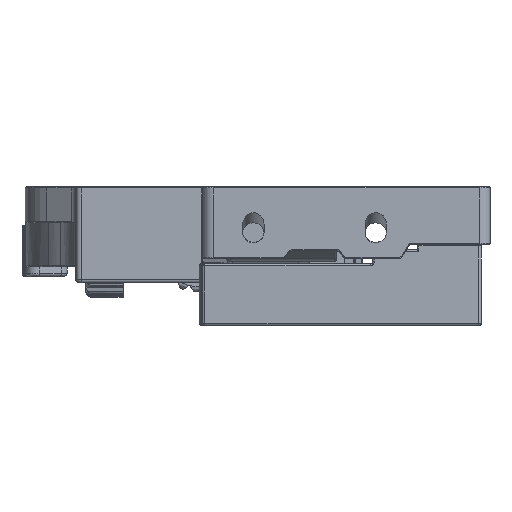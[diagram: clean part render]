
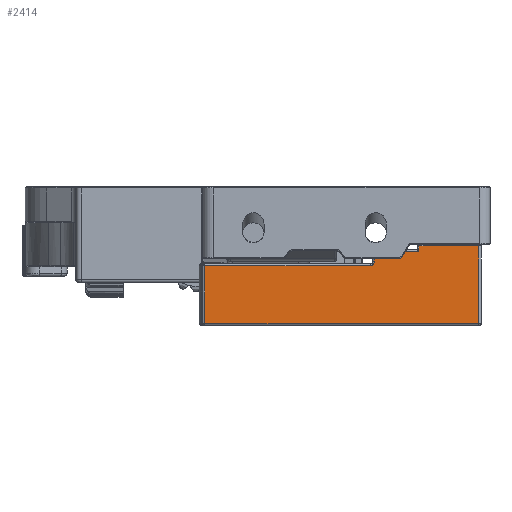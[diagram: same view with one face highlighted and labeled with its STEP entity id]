
A CAD part, front view. The second image highlights one B-rep face of the part: STEP entity #2414.
In plain terms, the highlighted planar face has unit normal (0, -1, 0).
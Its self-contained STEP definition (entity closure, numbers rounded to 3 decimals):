
#1434 = EDGE_CURVE ( 'NONE', #23380, #54816, #46738, .T. ) ;
#2380 = CARTESIAN_POINT ( 'NONE',  ( -13.422, -18.905, -11.206 ) ) ;
#2414 = ADVANCED_FACE ( 'NONE', ( #4628 ), #6515, .F. ) ;
#2738 = DIRECTION ( 'NONE',  ( -1., 0., 0. ) ) ;
#2882 = VECTOR ( 'NONE', #4498, 1000. ) ;
#3322 = DIRECTION ( 'NONE',  ( 0., 0., -1. ) ) ;
#3456 = CARTESIAN_POINT ( 'NONE',  ( -2.137, -18.905, -11.1 ) ) ;
#4498 = DIRECTION ( 'NONE',  ( 0., 0., 1. ) ) ;
#4628 = FACE_OUTER_BOUND ( 'NONE', #40705, .T. ) ;
#4851 = LINE ( 'NONE', #53442, #41004 ) ;
#4927 = CARTESIAN_POINT ( 'NONE',  ( -17.232, -18.905, -12.5 ) ) ;
#5741 = VERTEX_POINT ( 'NONE', #3456 ) ;
#6515 = PLANE ( 'NONE',  #54642 ) ;
#7166 = CARTESIAN_POINT ( 'NONE',  ( -13.427, -18.905, -11.222 ) ) ;
#7952 = ORIENTED_EDGE ( 'NONE', *, *, #37665, .T. ) ;
#8080 = CARTESIAN_POINT ( 'NONE',  ( -13.436, -18.905, -12.165 ) ) ;
#8715 = ORIENTED_EDGE ( 'NONE', *, *, #53239, .T. ) ;
#9023 = EDGE_CURVE ( 'NONE', #54816, #19866, #9177, .T. ) ;
#9177 = B_SPLINE_CURVE_WITH_KNOTS ( 'NONE', 3,
 ( #48705, #43956, #15349, #20492, #53460, #25226 ),
 .UNSPECIFIED., .F., .F.,
 ( 4, 2, 4 ),
 ( 0., 0.5, 1. ),
 .UNSPECIFIED. ) ;
#9579 = VERTEX_POINT ( 'NONE', #8080 ) ;
#9722 = DIRECTION ( 'NONE',  ( -1., 0., 0. ) ) ;
#10356 = VECTOR ( 'NONE', #40320, 1000. ) ;
#10673 = CARTESIAN_POINT ( 'NONE',  ( -21.731, -18.905, -23.5 ) ) ;
#11309 = DIRECTION ( 'NONE',  ( 0., 0., 1. ) ) ;
#11434 = VERTEX_POINT ( 'NONE', #46637 ) ;
#11571 = LINE ( 'NONE', #59822, #47613 ) ;
#11729 = CARTESIAN_POINT ( 'NONE',  ( -13.382, -18.905, -11.127 ) ) ;
#11931 = CARTESIAN_POINT ( 'NONE',  ( -13.435, -18.905, -11.259 ) ) ;
#12295 = CARTESIAN_POINT ( 'NONE',  ( -47.637, -18.905, -14.8 ) ) ;
#12540 = CARTESIAN_POINT ( 'NONE',  ( -47.637, -18.905, -12.165 ) ) ;
#12631 = DIRECTION ( 'NONE',  ( -1., 0., 0. ) ) ;
#12637 = CARTESIAN_POINT ( 'NONE',  ( -53.637, -18.905, -25.7 ) ) ;
#13579 = CARTESIAN_POINT ( 'NONE',  ( -13.436, -18.905, -23.5 ) ) ;
#14676 = CARTESIAN_POINT ( 'NONE',  ( -2.137, -18.905, -25.7 ) ) ;
#14718 = DIRECTION ( 'NONE',  ( -1., 0., 0. ) ) ;
#15349 = CARTESIAN_POINT ( 'NONE',  ( -21.818, -18.905, -14.418 ) ) ;
#15414 = EDGE_CURVE ( 'NONE', #16367, #21207, #18339, .T. ) ;
#16245 = CARTESIAN_POINT ( 'NONE',  ( -13.36, -18.905, -11.1 ) ) ;
#16367 = VERTEX_POINT ( 'NONE', #21451 ) ;
#16463 = CARTESIAN_POINT ( 'NONE',  ( -13.402, -18.905, -11.16 ) ) ;
#16664 = CARTESIAN_POINT ( 'NONE',  ( -13.436, -18.905, -11.287 ) ) ;
#16699 = ORIENTED_EDGE ( 'NONE', *, *, #1434, .T. ) ;
#16806 = CARTESIAN_POINT ( 'NONE',  ( -17.232, -18.905, -13.5 ) ) ;
#18339 = B_SPLINE_CURVE_WITH_KNOTS ( 'NONE', 3,
 ( #16245, #58691, #11729, #44624, #16463, #49393, #21183, #54136, #25886, #58885, #30633, #2380, #35329, #7166, #40106, #11931, #44827, #16664 ),
 .UNSPECIFIED., .F., .F.,
 ( 4, 2, 1, 1, 2, 2, 2, 2, 2, 4 ),
 ( 0., 0.25, 0.375, 0.437, 0.469, 0.5, 0.625, 0.687, 0.75, 1. ),
 .UNSPECIFIED. ) ;
#18357 = ORIENTED_EDGE ( 'NONE', *, *, #22216, .T. ) ;
#18763 = VERTEX_POINT ( 'NONE', #26036 ) ;
#19154 = CARTESIAN_POINT ( 'NONE',  ( -22.531, -18.905, -14.8 ) ) ;
#19866 = VERTEX_POINT ( 'NONE', #19154 ) ;
#20492 = CARTESIAN_POINT ( 'NONE',  ( -22.114, -18.905, -14.714 ) ) ;
#20624 = ORIENTED_EDGE ( 'NONE', *, *, #37492, .F. ) ;
#21183 = CARTESIAN_POINT ( 'NONE',  ( -13.412, -18.905, -11.179 ) ) ;
#21207 = VERTEX_POINT ( 'NONE', #43026 ) ;
#21393 = LINE ( 'NONE', #12540, #10356 ) ;
#21451 = CARTESIAN_POINT ( 'NONE',  ( -13.36, -18.905, -11.1 ) ) ;
#22216 = EDGE_CURVE ( 'NONE', #19866, #54341, #49335, .T. ) ;
#22698 = EDGE_CURVE ( 'NONE', #5741, #16367, #43435, .T. ) ;
#22781 = EDGE_CURVE ( 'NONE', #52923, #5741, #40531, .T. ) ;
#23026 = DIRECTION ( 'NONE',  ( 0., 0., -1. ) ) ;
#23380 = VERTEX_POINT ( 'NONE', #58518 ) ;
#24467 = ORIENTED_EDGE ( 'NONE', *, *, #34005, .T. ) ;
#25226 = CARTESIAN_POINT ( 'NONE',  ( -22.531, -18.905, -14.8 ) ) ;
#25886 = CARTESIAN_POINT ( 'NONE',  ( -13.415, -18.905, -11.186 ) ) ;
#26036 = CARTESIAN_POINT ( 'NONE',  ( -16.366, -18.905, -13. ) ) ;
#26432 = EDGE_CURVE ( 'NONE', #18763, #43047, #57213, .T. ) ;
#27285 = ORIENTED_EDGE ( 'NONE', *, *, #15414, .T. ) ;
#27767 = DIRECTION ( 'NONE',  ( 1., 0., 0. ) ) ;
#28574 = VERTEX_POINT ( 'NONE', #12637 ) ;
#28915 = CARTESIAN_POINT ( 'NONE',  ( -27.5, -18.905, -13.5 ) ) ;
#29350 = DIRECTION ( 'NONE',  ( 0., 0., -1. ) ) ;
#29428 = ORIENTED_EDGE ( 'NONE', *, *, #22698, .T. ) ;
#29468 = VECTOR ( 'NONE', #12631, 1000. ) ;
#30633 = CARTESIAN_POINT ( 'NONE',  ( -13.418, -18.905, -11.194 ) ) ;
#31150 = EDGE_CURVE ( 'NONE', #21207, #9579, #36286, .T. ) ;
#31513 = CARTESIAN_POINT ( 'NONE',  ( -47.637, -18.905, -25.7 ) ) ;
#34005 = EDGE_CURVE ( 'NONE', #9579, #11434, #21393, .T. ) ;
#34710 = CARTESIAN_POINT ( 'NONE',  ( -47.637, -18.905, -23.5 ) ) ;
#35329 = CARTESIAN_POINT ( 'NONE',  ( -13.424, -18.905, -11.211 ) ) ;
#35680 = VECTOR ( 'NONE', #29350, 1000. ) ;
#36130 = ORIENTED_EDGE ( 'NONE', *, *, #9023, .T. ) ;
#36286 = LINE ( 'NONE', #13579, #48870 ) ;
#37492 = EDGE_CURVE ( 'NONE', #18763, #11434, #4851, .T. ) ;
#37665 = EDGE_CURVE ( 'NONE', #54341, #28574, #11571, .T. ) ;
#37882 = DIRECTION ( 'NONE',  ( 0., 1., 0. ) ) ;
#39215 = DIRECTION ( 'NONE',  ( 0.5, 0., 0.866 ) ) ;
#39466 = DIRECTION ( 'NONE',  ( 0., 1., 0. ) ) ;
#40106 = CARTESIAN_POINT ( 'NONE',  ( -13.429, -18.905, -11.23 ) ) ;
#40269 = ORIENTED_EDGE ( 'NONE', *, *, #26432, .T. ) ;
#40320 = DIRECTION ( 'NONE',  ( -1., 0., 0. ) ) ;
#40531 = LINE ( 'NONE', #42194, #2882 ) ;
#40705 = EDGE_LOOP ( 'NONE', ( #41837, #16699, #36130, #18357, #7952, #8715, #55502, #29428, #27285, #58828, #24467, #20624, #40269 ) ) ;
#41004 = VECTOR ( 'NONE', #39215, 1000. ) ;
#41837 = ORIENTED_EDGE ( 'NONE', *, *, #56707, .T. ) ;
#42194 = CARTESIAN_POINT ( 'NONE',  ( -2.137, -18.905, -2.067 ) ) ;
#43026 = CARTESIAN_POINT ( 'NONE',  ( -13.436, -18.905, -11.287 ) ) ;
#43047 = VERTEX_POINT ( 'NONE', #16806 ) ;
#43435 = LINE ( 'NONE', #59593, #29468 ) ;
#43956 = CARTESIAN_POINT ( 'NONE',  ( -21.731, -18.905, -14.209 ) ) ;
#44275 = LINE ( 'NONE', #28915, #55345 ) ;
#44624 = CARTESIAN_POINT ( 'NONE',  ( -13.396, -18.905, -11.149 ) ) ;
#44827 = CARTESIAN_POINT ( 'NONE',  ( -13.436, -18.905, -11.277 ) ) ;
#46637 = CARTESIAN_POINT ( 'NONE',  ( -15.884, -18.905, -12.165 ) ) ;
#46738 = LINE ( 'NONE', #10673, #35680 ) ;
#47613 = VECTOR ( 'NONE', #3322, 1000. ) ;
#47815 = VECTOR ( 'NONE', #2738, 1000. ) ;
#48705 = CARTESIAN_POINT ( 'NONE',  ( -21.731, -18.905, -14. ) ) ;
#48870 = VECTOR ( 'NONE', #23026, 1000. ) ;
#48903 = LINE ( 'NONE', #31513, #59988 ) ;
#48913 = CARTESIAN_POINT ( 'NONE',  ( -53.637, -18.905, -14.8 ) ) ;
#49335 = LINE ( 'NONE', #12295, #47815 ) ;
#49393 = CARTESIAN_POINT ( 'NONE',  ( -13.409, -18.905, -11.173 ) ) ;
#52923 = VERTEX_POINT ( 'NONE', #14676 ) ;
#53239 = EDGE_CURVE ( 'NONE', #28574, #52923, #48903, .T. ) ;
#53442 = CARTESIAN_POINT ( 'NONE',  ( -16.655, -18.905, -13.5 ) ) ;
#53460 = CARTESIAN_POINT ( 'NONE',  ( -22.322, -18.905, -14.8 ) ) ;
#53583 = CARTESIAN_POINT ( 'NONE',  ( -21.731, -18.905, -14. ) ) ;
#54136 = CARTESIAN_POINT ( 'NONE',  ( -13.413, -18.905, -11.183 ) ) ;
#54341 = VERTEX_POINT ( 'NONE', #48913 ) ;
#54642 = AXIS2_PLACEMENT_3D ( 'NONE', #34710, #39466, #11309 ) ;
#54816 = VERTEX_POINT ( 'NONE', #53583 ) ;
#55345 = VECTOR ( 'NONE', #14718, 1000. ) ;
#55502 = ORIENTED_EDGE ( 'NONE', *, *, #22781, .T. ) ;
#56707 = EDGE_CURVE ( 'NONE', #43047, #23380, #44275, .T. ) ;
#57213 = CIRCLE ( 'NONE', #57353, 1. ) ;
#57353 = AXIS2_PLACEMENT_3D ( 'NONE', #4927, #37882, #9722 ) ;
#58518 = CARTESIAN_POINT ( 'NONE',  ( -21.731, -18.905, -13.5 ) ) ;
#58691 = CARTESIAN_POINT ( 'NONE',  ( -13.372, -18.905, -11.113 ) ) ;
#58828 = ORIENTED_EDGE ( 'NONE', *, *, #31150, .T. ) ;
#58885 = CARTESIAN_POINT ( 'NONE',  ( -13.416, -18.905, -11.189 ) ) ;
#59593 = CARTESIAN_POINT ( 'NONE',  ( -0.137, -18.905, -11.1 ) ) ;
#59822 = CARTESIAN_POINT ( 'NONE',  ( -53.637, -18.905, -23.5 ) ) ;
#59988 = VECTOR ( 'NONE', #27767, 1000. ) ;
